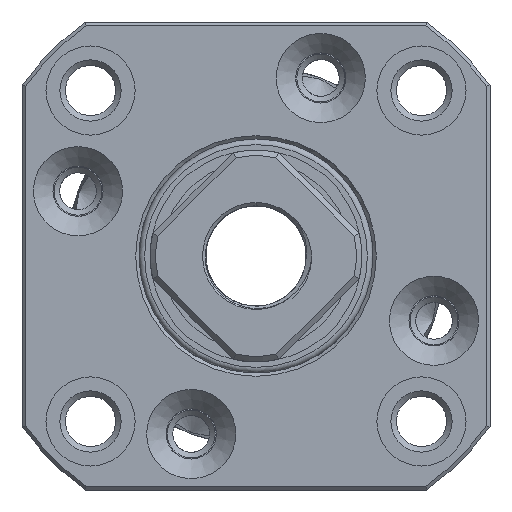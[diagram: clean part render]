
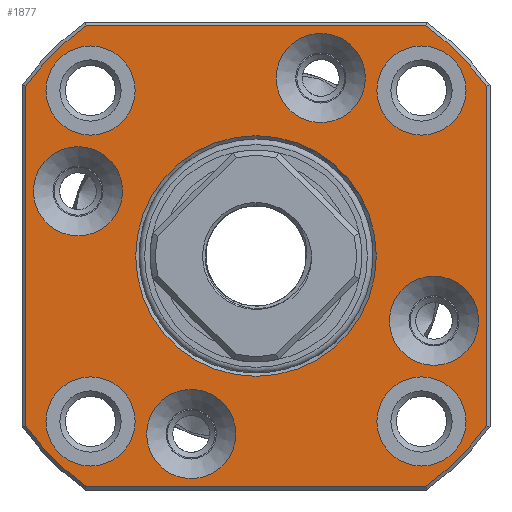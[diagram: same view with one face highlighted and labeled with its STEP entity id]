
A CAD part, left-side view. The second image highlights one B-rep face of the part: STEP entity #1877.
In plain terms, the highlighted planar face has unit normal (-1, 0, 0).
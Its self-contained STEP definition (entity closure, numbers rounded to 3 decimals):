
#1877=ADVANCED_FACE('',(#4430,#4432,#4434,#4436,#4438,#4440,#4442,#4444,#4446,#4448),
#4450,.F.);
#4430=FACE_BOUND('',#4431,.T.);
#4431=EDGE_LOOP('',(#12522,#12523,#12524,#12525,#12526,#12527,#12528,#12529));
#4432=FACE_BOUND('',#4433,.T.);
#4433=EDGE_LOOP('',(#12530));
#4434=FACE_BOUND('',#4435,.T.);
#4435=EDGE_LOOP('',(#12531));
#4436=FACE_BOUND('',#4437,.T.);
#4437=EDGE_LOOP('',(#12532));
#4438=FACE_BOUND('',#4439,.T.);
#4439=EDGE_LOOP('',(#12533));
#4440=FACE_BOUND('',#4441,.T.);
#4441=EDGE_LOOP('',(#12534));
#4442=FACE_BOUND('',#4443,.T.);
#4443=EDGE_LOOP('',(#12535));
#4444=FACE_BOUND('',#4445,.T.);
#4445=EDGE_LOOP('',(#12536));
#4446=FACE_BOUND('',#4447,.T.);
#4447=EDGE_LOOP('',(#12537));
#4448=FACE_BOUND('',#4449,.T.);
#4449=EDGE_LOOP('',(#12538));
#4450=PLANE('',#4451);
#4451=AXIS2_PLACEMENT_3D('',#4452,#4453,#4454);
#4452=CARTESIAN_POINT('',(-4.,10.5,0.));
#4453=DIRECTION('',(1.,0.,0.));
#4454=DIRECTION('',(0.,0.,-1.));
#12522=ORIENTED_EDGE('',*,*,#13325,.T.);
#12523=ORIENTED_EDGE('',*,*,#13326,.T.);
#12524=ORIENTED_EDGE('',*,*,#13327,.T.);
#12525=ORIENTED_EDGE('',*,*,#13328,.T.);
#12526=ORIENTED_EDGE('',*,*,#13329,.T.);
#12527=ORIENTED_EDGE('',*,*,#13330,.T.);
#12528=ORIENTED_EDGE('',*,*,#13331,.T.);
#12529=ORIENTED_EDGE('',*,*,#13332,.T.);
#12530=ORIENTED_EDGE('',*,*,#13303,.T.);
#12531=ORIENTED_EDGE('',*,*,#13308,.F.);
#12532=ORIENTED_EDGE('',*,*,#13311,.F.);
#12533=ORIENTED_EDGE('',*,*,#13314,.F.);
#12534=ORIENTED_EDGE('',*,*,#13317,.F.);
#12535=ORIENTED_EDGE('',*,*,#13319,.F.);
#12536=ORIENTED_EDGE('',*,*,#13321,.F.);
#12537=ORIENTED_EDGE('',*,*,#13323,.F.);
#12538=ORIENTED_EDGE('',*,*,#13305,.F.);
#13303=EDGE_CURVE('',#14033,#14033,#14034,.T.);
#13305=EDGE_CURVE('',#14037,#14037,#14038,.T.);
#13308=EDGE_CURVE('',#14043,#14043,#14044,.T.);
#13311=EDGE_CURVE('',#14049,#14049,#14050,.T.);
#13314=EDGE_CURVE('',#14055,#14055,#14056,.T.);
#13317=EDGE_CURVE('',#14061,#14061,#14062,.T.);
#13319=EDGE_CURVE('',#14065,#14065,#14066,.T.);
#13321=EDGE_CURVE('',#14069,#14069,#14070,.T.);
#13323=EDGE_CURVE('',#14073,#14073,#14074,.T.);
#13325=EDGE_CURVE('',#14077,#14078,#14079,.T.);
#13326=EDGE_CURVE('',#14078,#14080,#14081,.T.);
#13327=EDGE_CURVE('',#14080,#14082,#14083,.T.);
#13328=EDGE_CURVE('',#14082,#14084,#14085,.T.);
#13329=EDGE_CURVE('',#14084,#14086,#14087,.T.);
#13330=EDGE_CURVE('',#14086,#14088,#14089,.T.);
#13331=EDGE_CURVE('',#14088,#14090,#14091,.T.);
#13332=EDGE_CURVE('',#14090,#14077,#14092,.T.);
#14033=VERTEX_POINT('',#18831);
#14034=CIRCLE('',#18832,10.8);
#14037=VERTEX_POINT('',#18896);
#14038=CIRCLE('',#18897,4.);
#14043=VERTEX_POINT('',#18966);
#14044=CIRCLE('',#18967,4.);
#14049=VERTEX_POINT('',#19036);
#14050=CIRCLE('',#19037,4.);
#14055=VERTEX_POINT('',#19106);
#14056=CIRCLE('',#19107,4.);
#14061=VERTEX_POINT('',#19121);
#14062=CIRCLE('',#19122,4.);
#14065=VERTEX_POINT('',#19131);
#14066=CIRCLE('',#19132,4.);
#14069=VERTEX_POINT('',#19141);
#14070=CIRCLE('',#19142,4.);
#14073=VERTEX_POINT('',#19151);
#14074=CIRCLE('',#19152,4.);
#14077=VERTEX_POINT('',#19161);
#14078=VERTEX_POINT('',#19162);
#14079=LINE('',#19163,#19164);
#14080=VERTEX_POINT('',#19166);
#14081=CIRCLE('',#19167,25.7);
#14082=VERTEX_POINT('',#19171);
#14083=LINE('',#19172,#19173);
#14084=VERTEX_POINT('',#19175);
#14085=CIRCLE('',#19176,25.7);
#14086=VERTEX_POINT('',#19180);
#14087=LINE('',#19181,#19182);
#14088=VERTEX_POINT('',#19184);
#14089=CIRCLE('',#19185,25.7);
#14090=VERTEX_POINT('',#19189);
#14091=LINE('',#19190,#19191);
#14092=CIRCLE('',#19193,25.7);
#18831=CARTESIAN_POINT('',(-4.,0.,10.8));
#18832=AXIS2_PLACEMENT_3D('',#18833,#18834,#18835);
#18833=CARTESIAN_POINT('',(-4.,0.,0.));
#18834=DIRECTION('',(1.,0.,0.));
#18835=DIRECTION('',(-0.,0.,1.));
#18896=CARTESIAN_POINT('',(-4.,15.975,9.814));
#18897=AXIS2_PLACEMENT_3D('',#18898,#18899,#18900);
#18898=CARTESIAN_POINT('',(-4.,15.975,5.814));
#18899=DIRECTION('',(-1.,-0.,-0.));
#18900=DIRECTION('',(0.,0.,-1.));
#18966=CARTESIAN_POINT('',(-4.,-5.814,19.975));
#18967=AXIS2_PLACEMENT_3D('',#18968,#18969,#18970);
#18968=CARTESIAN_POINT('',(-4.,-5.814,15.975));
#18969=DIRECTION('',(-1.,-0.,-0.));
#18970=DIRECTION('',(0.,0.,-1.));
#19036=CARTESIAN_POINT('',(-4.,-15.975,-1.814));
#19037=AXIS2_PLACEMENT_3D('',#19038,#19039,#19040);
#19038=CARTESIAN_POINT('',(-4.,-15.975,-5.814));
#19039=DIRECTION('',(-1.,-0.,-0.));
#19040=DIRECTION('',(0.,0.,-1.));
#19106=CARTESIAN_POINT('',(-4.,5.814,-11.975));
#19107=AXIS2_PLACEMENT_3D('',#19108,#19109,#19110);
#19108=CARTESIAN_POINT('',(-4.,5.814,-15.975));
#19109=DIRECTION('',(-1.,-0.,-0.));
#19110=DIRECTION('',(0.,0.,-1.));
#19121=CARTESIAN_POINT('',(-4.,-14.849,18.849));
#19122=AXIS2_PLACEMENT_3D('',#19123,#19124,#19125);
#19123=CARTESIAN_POINT('',(-4.,-14.849,14.849));
#19124=DIRECTION('',(-1.,-0.,-0.));
#19125=DIRECTION('',(0.,0.,-1.));
#19131=CARTESIAN_POINT('',(-4.,-14.849,-10.849));
#19132=AXIS2_PLACEMENT_3D('',#19133,#19134,#19135);
#19133=CARTESIAN_POINT('',(-4.,-14.849,-14.849));
#19134=DIRECTION('',(-1.,-0.,-0.));
#19135=DIRECTION('',(0.,0.,-1.));
#19141=CARTESIAN_POINT('',(-4.,14.849,-10.849));
#19142=AXIS2_PLACEMENT_3D('',#19143,#19144,#19145);
#19143=CARTESIAN_POINT('',(-4.,14.849,-14.849));
#19144=DIRECTION('',(-1.,-0.,-0.));
#19145=DIRECTION('',(0.,0.,-1.));
#19151=CARTESIAN_POINT('',(-4.,14.849,18.849));
#19152=AXIS2_PLACEMENT_3D('',#19153,#19154,#19155);
#19153=CARTESIAN_POINT('',(-4.,14.849,14.849));
#19154=DIRECTION('',(-1.,-0.,-0.));
#19155=DIRECTION('',(0.,0.,-1.));
#19161=CARTESIAN_POINT('',(-4.,-20.7,-15.232));
#19162=CARTESIAN_POINT('',(-4.,-20.7,15.232));
#19163=CARTESIAN_POINT('',(-4.,-20.7,-15.232));
#19164=VECTOR('',#19165,1.);
#19165=DIRECTION('',(0.,0.,1.));
#19166=CARTESIAN_POINT('',(-4.,-15.232,20.7));
#19167=AXIS2_PLACEMENT_3D('',#19168,#19169,#19170);
#19168=CARTESIAN_POINT('',(-4.,0.,0.));
#19169=DIRECTION('',(-1.,-0.,0.));
#19170=DIRECTION('',(0.,-0.805,0.593));
#19171=CARTESIAN_POINT('',(-4.,15.232,20.7));
#19172=CARTESIAN_POINT('',(-4.,-15.232,20.7));
#19173=VECTOR('',#19174,1.);
#19174=DIRECTION('',(0.,1.,0.));
#19175=CARTESIAN_POINT('',(-4.,20.7,15.232));
#19176=AXIS2_PLACEMENT_3D('',#19177,#19178,#19179);
#19177=CARTESIAN_POINT('',(-4.,0.,0.));
#19178=DIRECTION('',(-1.,0.,-0.));
#19179=DIRECTION('',(0.,0.593,0.805));
#19180=CARTESIAN_POINT('',(-4.,20.7,-15.232));
#19181=CARTESIAN_POINT('',(-4.,20.7,15.232));
#19182=VECTOR('',#19183,1.);
#19183=DIRECTION('',(0.,0.,-1.));
#19184=CARTESIAN_POINT('',(-4.,15.232,-20.7));
#19185=AXIS2_PLACEMENT_3D('',#19186,#19187,#19188);
#19186=CARTESIAN_POINT('',(-4.,0.,0.));
#19187=DIRECTION('',(-1.,0.,-0.));
#19188=DIRECTION('',(0.,0.805,-0.593));
#19189=CARTESIAN_POINT('',(-4.,-15.232,-20.7));
#19190=CARTESIAN_POINT('',(-4.,15.232,-20.7));
#19191=VECTOR('',#19192,1.);
#19192=DIRECTION('',(0.,-1.,0.));
#19193=AXIS2_PLACEMENT_3D('',#19194,#19195,#19196);
#19194=CARTESIAN_POINT('',(-4.,0.,0.));
#19195=DIRECTION('',(-1.,-0.,0.));
#19196=DIRECTION('',(0.,-0.593,-0.805));
